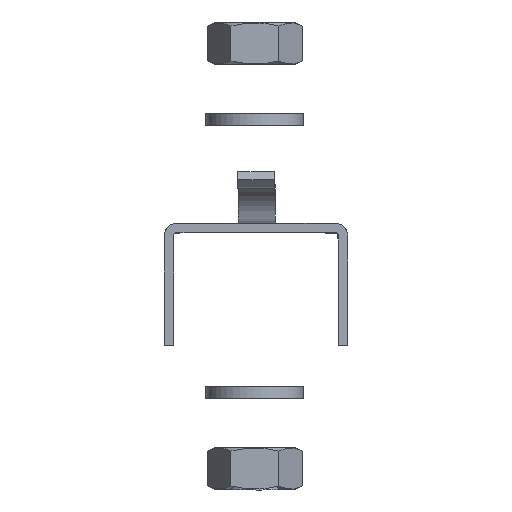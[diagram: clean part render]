
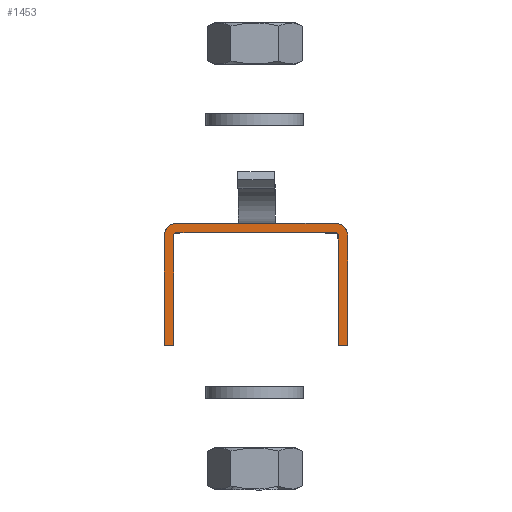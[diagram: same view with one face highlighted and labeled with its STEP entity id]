
A CAD part, front view. The second image highlights one B-rep face of the part: STEP entity #1453.
In plain terms, the highlighted planar face has unit normal (0, -1, 0).
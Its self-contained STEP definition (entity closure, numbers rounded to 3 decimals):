
#77=PLANE($,#4581);
#1453=ADVANCED_FACE($,(#1608),#77,.T.);
#1608=FACE_OUTER_BOUND($,#1773,.T.);
#1773=EDGE_LOOP($,(#2203,#2204,#2205,#2206,#2207));
#2203=ORIENTED_EDGE($,*,*,#2903,.T.);
#2204=ORIENTED_EDGE($,*,*,#2907,.T.);
#2205=ORIENTED_EDGE($,*,*,#2906,.T.);
#2206=ORIENTED_EDGE($,*,*,#2905,.T.);
#2207=ORIENTED_EDGE($,*,*,#2904,.T.);
#2903=EDGE_CURVE($,#3545,#3549,#4450,.T.);
#2904=EDGE_CURVE($,#3546,#3545,#4003,.T.);
#2905=EDGE_CURVE($,#3547,#3546,#4004,.T.);
#2906=EDGE_CURVE($,#3548,#3547,#4451,.T.);
#2907=EDGE_CURVE($,#3549,#3548,#4005,.T.);
#3545=VERTEX_POINT($,#7234);
#3546=VERTEX_POINT($,#7235);
#3547=VERTEX_POINT($,#7236);
#3548=VERTEX_POINT($,#7237);
#3549=VERTEX_POINT($,#7238);
#4003=B_SPLINE_CURVE_WITH_KNOTS($,1,(#7216,#7217),.UNSPECIFIED.,.F.,.F.,
(2,2),(-43.717,-25.717),.UNSPECIFIED.);
#4004=B_SPLINE_CURVE_WITH_KNOTS($,1,(#7218,#7219),.UNSPECIFIED.,.F.,.F.,
(2,2),(-45.217,-43.717),.UNSPECIFIED.);
#4005=B_SPLINE_CURVE_WITH_KNOTS($,1,(#7231,#7232),.UNSPECIFIED.,.F.,.F.,
(2,2),(-115.,-113.5),.UNSPECIFIED.);
#4450=(
BOUNDED_CURVE()
B_SPLINE_CURVE(2,(#7207,#7208,#7209,#7210,#7211,#7212,#7213,#7214,#7215),
.UNSPECIFIED.,.F.,.F.)
B_SPLINE_CURVE_WITH_KNOTS((3,2,2,2,3),(-160.571,-159.785,
-133.785,-133.,-115.),.UNSPECIFIED.)
CURVE()
GEOMETRIC_REPRESENTATION_ITEM()
RATIONAL_B_SPLINE_CURVE((1.,0.707,1.,1.,1.,0.707,
1.,1.,1.))
REPRESENTATION_ITEM($)
);
#4451=(
BOUNDED_CURVE()
B_SPLINE_CURVE(2,(#7220,#7221,#7222,#7223,#7224,#7225,#7226,#7227,#7228,
#7229,#7230),.UNSPECIFIED.,.F.,.F.)
B_SPLINE_CURVE_WITH_KNOTS((3,2,2,2,2,3),(-113.5,-95.5,-92.358,
-66.358,-63.217,-45.217),.UNSPECIFIED.)
CURVE()
GEOMETRIC_REPRESENTATION_ITEM()
RATIONAL_B_SPLINE_CURVE((1.,1.,1.,0.707,1.,1.,1.,0.707,
1.,1.,1.))
REPRESENTATION_ITEM($)
);
#4581=AXIS2_PLACEMENT_3D($,#7233,#4636,$);
#4636=DIRECTION($,(0.,-1.,0.));
#7207=CARTESIAN_POINT($,(-16.5,-563.969,-2.));
#7208=CARTESIAN_POINT($,(-16.5,-563.969,-1.5));
#7209=CARTESIAN_POINT($,(-16.,-563.969,-1.5));
#7210=CARTESIAN_POINT($,(-3.,-563.969,-1.5));
#7211=CARTESIAN_POINT($,(10.,-563.969,-1.5));
#7212=CARTESIAN_POINT($,(10.5,-563.969,-1.5));
#7213=CARTESIAN_POINT($,(10.5,-563.969,-2.));
#7214=CARTESIAN_POINT($,(10.5,-563.969,-11.));
#7215=CARTESIAN_POINT($,(10.5,-563.969,-20.));
#7216=CARTESIAN_POINT($,(-16.5,-563.969,-20.));
#7217=CARTESIAN_POINT($,(-16.5,-563.969,-2.));
#7218=CARTESIAN_POINT($,(-18.,-563.969,-20.));
#7219=CARTESIAN_POINT($,(-16.5,-563.969,-20.));
#7220=CARTESIAN_POINT($,(12.,-563.969,-20.));
#7221=CARTESIAN_POINT($,(12.,-563.969,-11.));
#7222=CARTESIAN_POINT($,(12.,-563.969,-2.));
#7223=CARTESIAN_POINT($,(12.,-563.969,0.));
#7224=CARTESIAN_POINT($,(10.,-563.969,0.));
#7225=CARTESIAN_POINT($,(-3.,-563.969,0.));
#7226=CARTESIAN_POINT($,(-16.,-563.969,0.));
#7227=CARTESIAN_POINT($,(-18.,-563.969,0.));
#7228=CARTESIAN_POINT($,(-18.,-563.969,-2.));
#7229=CARTESIAN_POINT($,(-18.,-563.969,-11.));
#7230=CARTESIAN_POINT($,(-18.,-563.969,-20.));
#7231=CARTESIAN_POINT($,(10.5,-563.969,-20.));
#7232=CARTESIAN_POINT($,(12.,-563.969,-20.));
#7233=CARTESIAN_POINT($,(-18.,-563.969,-20.));
#7234=CARTESIAN_POINT($,(-16.5,-563.969,-2.));
#7235=CARTESIAN_POINT($,(-16.5,-563.969,-20.));
#7236=CARTESIAN_POINT($,(-18.,-563.969,-20.));
#7237=CARTESIAN_POINT($,(12.,-563.969,-20.));
#7238=CARTESIAN_POINT($,(10.5,-563.969,-20.));
